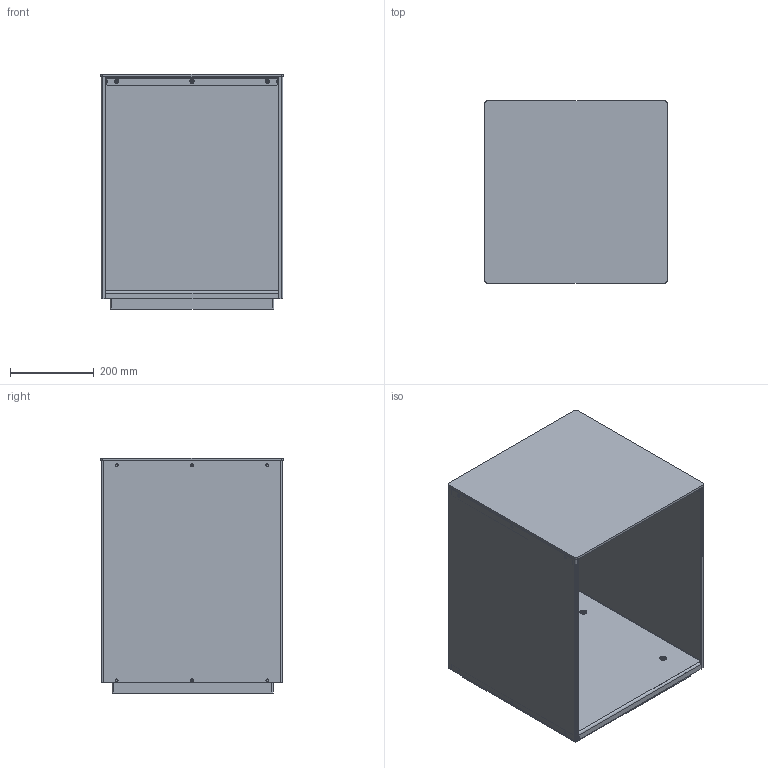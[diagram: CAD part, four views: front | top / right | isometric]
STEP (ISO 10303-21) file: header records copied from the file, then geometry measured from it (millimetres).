
FILE_DESCRIPTION(/* description */ ('Unknown'),/* implementation_level */ '2;1');
FILE_NAME(/* name */ 'Vedfack C420 (DSN1112296)',/* time_stamp */ '2026-03-24T13:34:03+01:00',/* author */ ('Unknown'),/* organization */ ('Unknown'),/* preprocessor_version */ 'ST-DEVELOPER v20',/* originating_system */ 'Solid Edge',/* authorisation */ 'Unknown');
FILE_SCHEMA (('AUTOMOTIVE_DESIGN {1 0 10303 214 3 1 1}'));
Length unit declared in the file: millimetre
Products named in the file (28): DSN1112296; 803551 Justerbar fot; 803263 Bult; 803262 Pinnskruv; 803264 Plasbricka; 803261 Bricka; 803264 Plasbricka_oa_0; DSN1112313; 416179 Presskruv M5x10; DSN1112241; 416149 Svartoxiderad bricka; 016521 Mutter M6M M5; 003613 Täckpropp Svart; DSN1112315; DSN1112243; DSN1112314; DSN1112318; DSN1112288; DSN1112314_718_1 175_Protrusion 1_oa_1; DSN1136406; 416062 Blindnitmutter EBPH M8; 298578 Fotinfästning Vedfack Ci51; DSN1136407; DSN1136406_2 684_1 931_Fillet 3_oa_2; DSN1136406_2 684_1 931_Fillet 3_oa_3; DSN1136408; DSN1136406_2 684_1 931_Fillet 3_oa_4; 416182 Kupolmutter M5 Svart
Assembly tree (86 placements, depth 3):
  DSN1112296
    803551 Justerbar fot  x4
      803263 Bult
      803262 Pinnskruv
      803264 Plasbricka
      803261 Bricka
      803264 Plasbricka_oa_0
    DSN1112313  x2
      416179 Presskruv M5x10
      DSN1112241
    416149 Svartoxiderad bricka  x18
    016521 Mutter M6M M5  x9
    003613 Täckpropp Svart  x4
    DSN1112315
      416179 Presskruv M5x10  x6
      DSN1112243
    DSN1112314
      DSN1112318
      DSN1112288  x3
      DSN1112314_718_1 175_Protrusion 1_oa_1
    DSN1136406
      416062 Blindnitmutter EBPH M8  x4
      298578 Fotinfästning Vedfack Ci51  x4
      DSN1136407
      DSN1136406_2 684_1 931_Fillet 3_oa_2
      DSN1136406_2 684_1 931_Fillet 3_oa_3
      DSN1136408
      DSN1136406_2 684_1 931_Fillet 3_oa_4
    416182 Kupolmutter M5 Svart  x9
Bounding box: 435 x 435 x 563.5 mm (x, y, z)
Volume: 3389687.5 mm3; surface area: 2500212.8 mm2
Topology: 131 solids, 131 shells, 3007 faces, 7628 edges, 4998 vertices
Faces by surface type: plane 1773, cylinder 903, cone 254, torus 68, sphere 9
Full cylindrical faces by diameter (mm): 3.5 x4, 3.6 x4, 3.614 x9, 3.7 x4, 3.8 x4, 4.134 x18, 4.2 x4, 5 x36, 5.18 x36, 6.5 x18, 6.8 x4, 7.125 x9, 7.2 x36, 8 x4, 8.5 x4, 9.5 x4, 10.8 x4, 10.95 x4, 14.5 x4, 16.2 x4, 16.75 x4, 30 x8
Entity records: 19627 total; most frequent: DIRECTION 3279, CARTESIAN_POINT 3241, ORIENTED_EDGE 2804, EDGE_CURVE 1402, AXIS2_PLACEMENT_3D 1174, VERTEX_POINT 980, LINE 931, VECTOR 931
